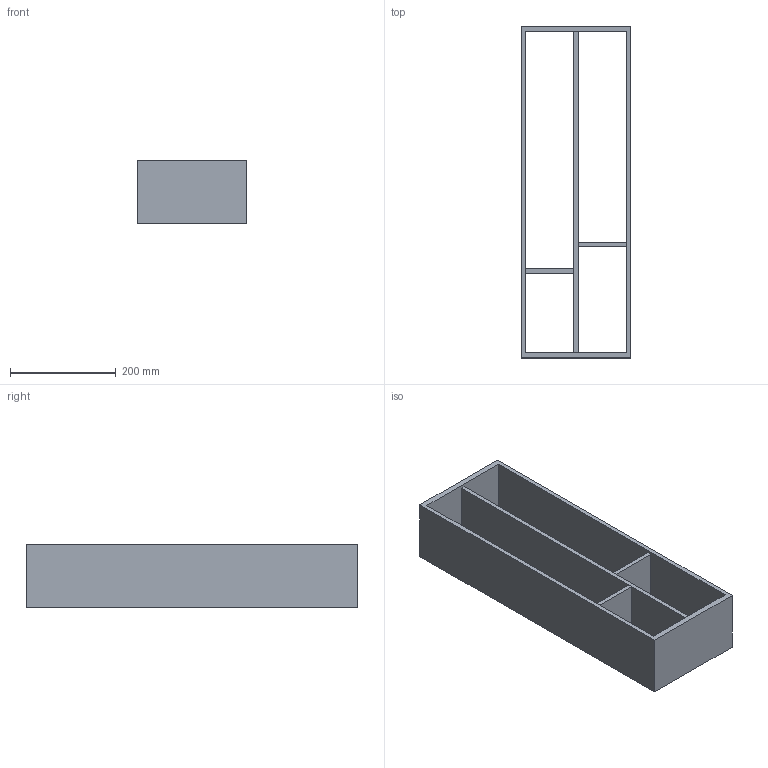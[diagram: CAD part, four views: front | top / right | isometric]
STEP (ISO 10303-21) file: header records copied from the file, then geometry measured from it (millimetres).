
FILE_DESCRIPTION (( 'STEP AP214' ), '1' );
FILE_NAME ('Vario Multi H120 NL650_B300_16 mm_Alu-Alu.step', '2010-10-08T09:48:18', ( 'grass' ), ( '' ), 'SwSTEP 2.0', 'SolidWorks 2010', '' );
FILE_SCHEMA (( 'AUTOMOTIVE_DESIGN' ));
Length unit declared in the file: millimetre
Products named in the file (1): Vario Multi H120 NL650_B300_16 mm_Alu-Alu
Bounding box: 208 x 629 x 120 mm (x, y, z)
Volume: 2435859.3 mm3; surface area: 608725.9 mm2
Topology: 1 solids, 1 shells, 22 faces, 60 edges, 40 vertices
Faces by surface type: plane 22
Entity records: 734 total; most frequent: CARTESIAN_POINT 123, ORIENTED_EDGE 120, DIRECTION 106, EDGE_CURVE 60, LINE 60, VECTOR 60, VERTEX_POINT 40, EDGE_LOOP 30
